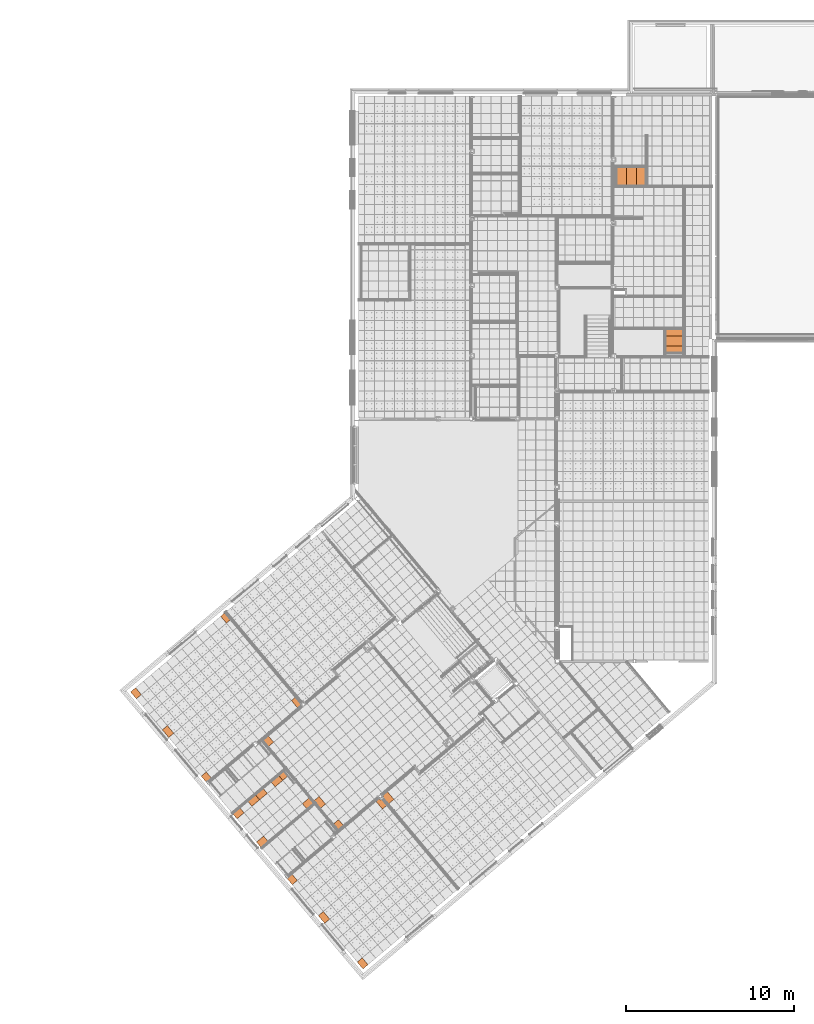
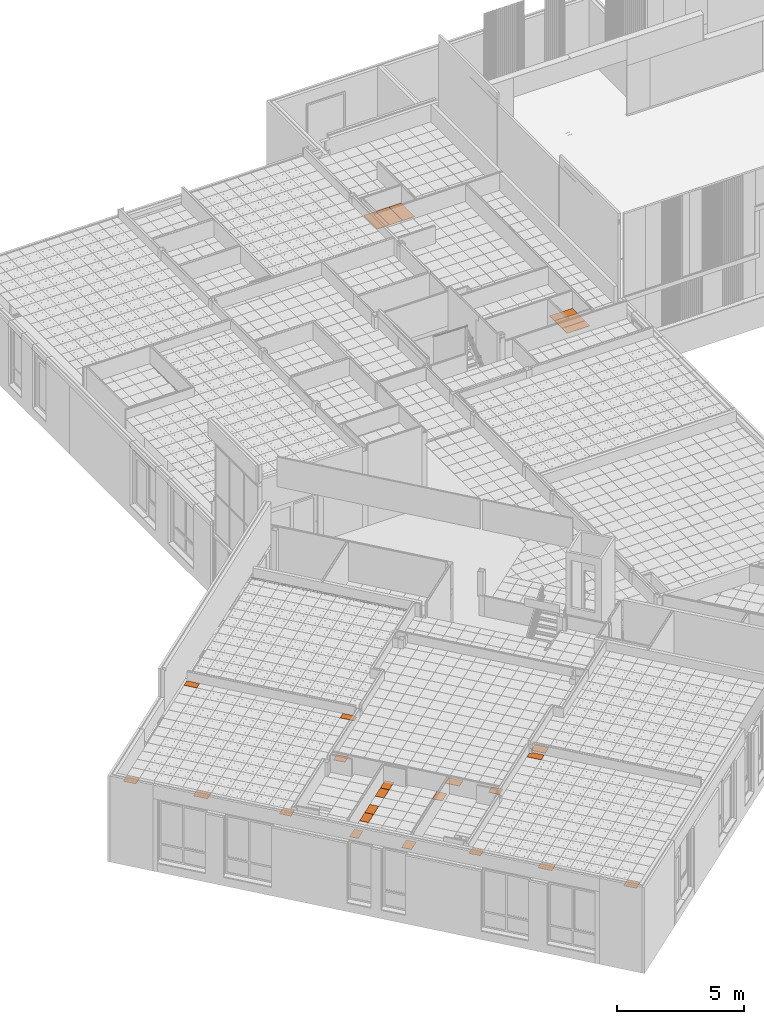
# One storey, part 321 of 338: 26 proxies, 7 elements without a shape of their own.
"""IFC2X3 building model written with IfcOpenShell, lengths in millimetres."""

from ifc_helpers import new_model, entity, si_unit, converted_unit, derived_unit, money_unit, direction, frame, origin_with_axes, place, context, subcontext, project, spatial, faceted_brep, material, type_object, element, aggregate, save


model = new_model("IFC2X3")

# Units and contexts
model_context = context("Model", 3, precision=0.01, world=origin_with_axes(), true_north=direction((0.0, 1.0)))
plan_context = context("Plan", 3, precision=0.01, world=origin_with_axes(), true_north=direction((0.0, 1.0)))
body_context = subcontext(model_context, "Body", "Model", "MODEL_VIEW")
ifc_project = project(units=[si_unit("LENGTHUNIT", "METRE", prefix="MILLI"), si_unit("AREAUNIT", "SQUARE_METRE"), si_unit("VOLUMEUNIT", "CUBIC_METRE"), converted_unit("PLANEANGLEUNIT", "DEGREE", entity("IfcPlaneAngleMeasure", 0.0174532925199), si_unit("PLANEANGLEUNIT", "RADIAN"), dimensions=[0, 0, 0, 0, 0, 0, 0]), money_unit("EUR"), converted_unit("TIMEUNIT", "Year", entity("IfcTimeMeasure", 31556926.0), si_unit("TIMEUNIT", "SECOND"), dimensions=[0, 0, 1, 0, 0, 0, 0]), si_unit("MASSUNIT", "GRAM", prefix="KILO"), si_unit("THERMODYNAMICTEMPERATUREUNIT", "DEGREE_CELSIUS"), si_unit("LUMINOUSINTENSITYUNIT", "LUMEN"), si_unit("ENERGYUNIT", "JOULE", prefix="MEGA"), derived_unit("THERMALCONDUCTANCEUNIT", [(si_unit("POWERUNIT", "WATT"), 1), (si_unit("LENGTHUNIT", "METRE"), -1), (si_unit("THERMODYNAMICTEMPERATUREUNIT", "KELVIN"), -1)]), derived_unit("SPECIFICHEATCAPACITYUNIT", [(si_unit("ENERGYUNIT", "JOULE"), 1), (si_unit("MASSUNIT", "GRAM", prefix="KILO"), -1), (si_unit("THERMODYNAMICTEMPERATUREUNIT", "KELVIN"), -1)]), derived_unit("MASSDENSITYUNIT", [(si_unit("MASSUNIT", "GRAM", prefix="KILO"), 1), (si_unit("VOLUMEUNIT", "CUBIC_METRE"), -1)])], contexts=[model_context, plan_context])

# Site, building, storey
site_placement = place(None, origin_with_axes())
site = spatial("IfcSite", under=ifc_project, at=site_placement, Name="Fortuinstraat Woensdrecht", CompositionType="ELEMENT")
building_placement = place(site_placement, origin_with_axes())
building = spatial("IfcBuilding", under=site, at=building_placement, Name="IKC Fortuna", CompositionType="ELEMENT")
storey_placement = place(building_placement, origin_with_axes())
storey = spatial("IfcBuildingStorey", under=building, at=storey_placement, Name="00 begane grond", CompositionType="ELEMENT", Elevation=0.0)

# Covering, proxies
covering_type = type_object("IfcCoveringType", Name="Curtain Wall Type", PredefinedType="CEILING")
covering_1_placement = place(storey_placement, frame((17937.1227498, -4186.27868692, 4660.0), z_axis=(0.0, 0.0, 1.0), x_axis=(1.0, 0.0, 0.0)))
covering_1 = element("IfcCovering", 1, at=covering_1_placement, inside=storey, type_object=covering_type, Name="45_Plafondafwerking_P02", PredefinedType="CEILING")
ifc_material = material(Name="Gipsplaat")
building_element_proxy_type_1 = type_object("IfcBuildingElementProxyType", Name="Distinct Panel 400 x 470 x 20", PredefinedType="NOTDEFINED")
proxy_1_placement = place(covering_1_placement, frame((-5316.66438761, -3775.8734372, 2.73558953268e-10), z_axis=(0.0, 0.0, 1.0), x_axis=(1.0, 0.0, 0.0)))
proxy_1 = element("IfcBuildingElementProxy", 2, at=proxy_1_placement, type_object=building_element_proxy_type_1, material=ifc_material, Name="__Panel-D", context=body_context, shape_type="Brep", body=[
    faceted_brep([(1.84586016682, 304.877784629, -10.0), (-300.566561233, 51.1234975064, -10.0), (-300.566561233, 51.1234975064, 9.99999999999), (1.84586016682, 304.877784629, 9.99999999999), (300.566564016, -51.1234948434, -10.0), (-1.84586655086, -304.877772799, -10.0), (-1.84586655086, -304.877772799, 9.99999999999), (300.566564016, -51.1234948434, 9.99999999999)], [[[0, 1, 2, 3]], [[0, 4, 5, 1]], [[1, 5, 6, 2]], [[3, 2, 6, 7]], [[4, 0, 3, 7]], [[5, 4, 7, 6]]]),
])
building_element_proxy_type_2 = type_object("IfcBuildingElementProxyType", Name="Distinct Panel 400 x 600 x 20", PredefinedType="NOTDEFINED")
proxy_2_placement = place(covering_1_placement, frame((-6431.81363938, -2446.89146249, 2.73558953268e-10), z_axis=(0.0, 0.0, 1.0), x_axis=(1.0, 0.0, 0.0)))
proxy_2 = element("IfcBuildingElementProxy", 3, at=proxy_2_placement, type_object=building_element_proxy_type_2, material=ifc_material, Name="__Panel-D", context=body_context, shape_type="Brep", body=[
    faceted_brep([(-40.0229237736, 354.775518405, -10.0), (-342.436284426, 101.020458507, -10.0), (-342.436284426, 101.020458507, 9.99999999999), (-40.0229237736, 354.775518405, 9.99999999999), (342.435826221, -101.020836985, -10.0), (40.0233818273, -354.775129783, -10.0), (40.0233818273, -354.775129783, 9.99999999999), (342.435826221, -101.020836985, 9.99999999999)], [[[0, 1, 2, 3]], [[0, 4, 5, 1]], [[1, 5, 6, 2]], [[3, 2, 6, 7]], [[4, 0, 3, 7]], [[5, 4, 7, 6]]]),
])
building_element_proxy_type_3 = type_object("IfcBuildingElementProxyType", Name="Distinct Panel 400 x 495 x 20", PredefinedType="NOTDEFINED")
proxy_3_placement = place(covering_1_placement, frame((-9483.53634046, 1190.00861887, 2.73558953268e-10), z_axis=(0.0, 0.0, 1.0), x_axis=(1.0, 0.0, 0.0)))
proxy_3 = element("IfcBuildingElementProxy", 4, at=proxy_3_placement, type_object=building_element_proxy_type_3, material=ifc_material, Name="__Panel-D", context=body_context, shape_type="Brep", body=[
    faceted_brep([(-6.36458547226, 314.662621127, -10.0), (-308.777104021, 60.9084149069, -10.0), (-308.777104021, 60.9084149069, 9.99999999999), (-6.36458547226, 314.662621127, 9.99999999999), (308.777054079, -60.9083698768, -10.0), (6.36462065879, -314.662670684, -10.0), (6.36462065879, -314.662670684, 9.99999999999), (308.777054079, -60.9083698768, 9.99999999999)], [[[0, 1, 2, 3]], [[0, 4, 5, 1]], [[1, 5, 6, 2]], [[3, 2, 6, 7]], [[4, 0, 3, 7]], [[5, 4, 7, 6]]]),
])
aggregate(covering_1, [proxy_1, proxy_2, proxy_3])

covering_2_placement = place(storey_placement, frame((32594.8983385, 20792.5135572, 2810.0), z_axis=(0.0, 0.0, 1.0), x_axis=(1.0, 0.0, 0.0)))
covering_2 = element("IfcCovering", 5, at=covering_2_placement, inside=storey, type_object=covering_type, Name="45_Plafondafwerking_P02a", PredefinedType="CEILING")
building_element_proxy_type_4 = type_object("IfcBuildingElementProxyType", Name="Distinct Panel 1050 x 600 x 20", PredefinedType="NOTDEFINED")
proxy_4_placement = place(covering_2_placement, origin_with_axes())
proxy_4 = element("IfcBuildingElementProxy", 6, at=proxy_4_placement, type_object=building_element_proxy_type_4, material=ifc_material, Name="__Panel-D", context=body_context, shape_type="Brep", body=[
    faceted_brep([(-522.265739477, 297.500004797, -10.0), (-522.265739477, 297.500004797, 9.99999999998), (522.265737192, 297.500004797, 9.99999999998), (522.265737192, 297.500004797, -10.0), (-522.265739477, -297.500002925, -10.0), (-522.265739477, -297.500002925, 9.99999999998), (522.265737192, -297.500002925, 9.99999999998), (522.265737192, -297.500002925, -10.0)], [[[0, 1, 2, 3]], [[4, 5, 1, 0]], [[1, 5, 6, 2]], [[3, 2, 6, 7]], [[0, 3, 7, 4]], [[7, 6, 5, 4]]]),
])
building_element_proxy_type_5 = type_object("IfcBuildingElementProxyType", Name="Distinct Panel 1050 x 392 x 20", PredefinedType="NOTDEFINED")
proxy_5_placement = place(covering_2_placement, frame((2.80998335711e-07, 496.000002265, 0.0), z_axis=(0.0, 0.0, 1.0), x_axis=(1.0, 0.0, 0.0)))
proxy_5 = element("IfcBuildingElementProxy", 7, at=proxy_5_placement, type_object=building_element_proxy_type_5, material=ifc_material, Name="__Panel-D", context=body_context, shape_type="Brep", body=[
    faceted_brep([(-522.26574552, 193.49999892, -10.0), (-522.26574552, 193.49999892, 9.99999999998), (522.265748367, 193.49999892, 9.99999999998), (522.265748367, 193.49999892, -10.0), (-522.265729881, -193.500005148, -10.0), (-522.265729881, -193.500005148, 9.99999999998), (522.265732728, -193.500005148, 9.99999999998), (522.265732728, -193.500005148, -10.0)], [[[0, 1, 2, 3]], [[4, 5, 1, 0]], [[1, 5, 6, 2]], [[3, 2, 6, 7]], [[0, 3, 7, 4]], [[7, 6, 5, 4]]]),
])
building_element_proxy_type_6 = type_object("IfcBuildingElementProxyType", Name="Distinct Panel 1050 x 393 x 20", PredefinedType="NOTDEFINED")
proxy_6_placement = place(covering_2_placement, frame((1.34977540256e-06, -496.35845993, 0.0), z_axis=(0.0, 0.0, 1.0), x_axis=(1.0, 0.0, 0.0)))
proxy_6 = element("IfcBuildingElementProxy", 8, at=proxy_6_placement, type_object=building_element_proxy_type_6, material=ifc_material, Name="__Panel-D", context=body_context, shape_type="Brep", body=[
    faceted_brep([(-522.265736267, 193.858452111, -10.0), (-522.265736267, 193.858452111, 9.99999999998), (522.265735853, 193.858452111, 9.99999999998), (522.265735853, 193.858452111, -10.0), (-522.265736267, -193.858462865, -10.0), (-522.265736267, -193.858462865, 9.99999999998), (522.265735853, -193.858462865, 9.99999999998), (522.265735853, -193.858462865, -10.0)], [[[0, 1, 2, 3]], [[4, 5, 1, 0]], [[1, 5, 6, 2]], [[3, 2, 6, 7]], [[0, 3, 7, 4]], [[7, 6, 5, 4]]]),
])
aggregate(covering_2, [proxy_4, proxy_5, proxy_6])

covering_3_placement = place(storey_placement, frame((9775.85169731, -1002.28242867, 4660.0), z_axis=(0.0, 0.0, 1.0), x_axis=(1.0, 0.0, 0.0)))
covering_3 = element("IfcCovering", 9, at=covering_3_placement, inside=storey, type_object=covering_type, Name="45_Plafondafwerking_P01", PredefinedType="CEILING")
building_element_proxy_type_7 = type_object("IfcBuildingElementProxyType", Name="394 x 600 x 20", PredefinedType="NOTDEFINED")
proxy_7_placement = place(covering_3_placement, frame((-7291.20980591, -1418.58734131, 2.32702745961e-10), z_axis=(0.0, 0.0, 1.0), x_axis=(1.0, 0.0, 0.0)))
proxy_7 = element("IfcBuildingElementProxy", 10, at=proxy_7_placement, type_object=building_element_proxy_type_7, material=ifc_material, Name="__600x671 Rockfon Krios", context=body_context, shape_type="Brep", body=[
    faceted_brep([(-42.049749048, 353.074805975, -10.0), (-340.408985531, 102.721540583, -10.0), (-340.408985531, 102.721540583, 9.99999999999), (-42.049749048, 353.074805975, 9.99999999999), (340.409003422, -102.721545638, -10.0), (42.0497457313, -353.074811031, -10.0), (42.0497457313, -353.074811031, 9.99999999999), (340.409003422, -102.721545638, 9.99999999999)], [[[0, 1, 2, 3]], [[0, 4, 5, 1]], [[1, 5, 6, 2]], [[3, 2, 6, 7]], [[4, 0, 3, 7]], [[5, 4, 7, 6]]]),
])
building_element_proxy_type_8 = type_object("IfcBuildingElementProxyType", Name="330 x 600 x 20", PredefinedType="NOTDEFINED")
proxy_8_placement = place(covering_3_placement, frame((428.270848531, 274.468674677, 0.0), z_axis=(0.0, 0.0, 1.0), x_axis=(1.0, 0.0, 0.0)))
proxy_8 = element("IfcBuildingElementProxy", 11, at=proxy_8_placement, type_object=building_element_proxy_type_8, material=ifc_material, Name="__600x662 Rockfon Krios", context=body_context, shape_type="Brep", body=[
    faceted_brep([(-138.439451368, 357.087646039, -10.0), (-387.771840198, 147.872815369, -10.0), (-387.771840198, 147.872815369, 9.99999999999), (-138.439451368, 357.087646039, 9.99999999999), (176.586935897, -18.3487505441, -10.0), (140.230719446, -48.8562865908, -10.0), (207.662540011, -129.215714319, -10.0), (-5.31306291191, -307.923548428, -10.0), (-5.31306291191, -307.923548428, 9.99999999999), (207.662540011, -129.215714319, 9.99999999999), (140.230719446, -48.8562865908, 9.99999999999), (176.586935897, -18.3487505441, 9.99999999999)], [[[0, 1, 2, 3]], [[0, 4, 5, 6, 7, 1]], [[1, 7, 8, 2]], [[3, 2, 8, 9, 10, 11]], [[4, 0, 3, 11]], [[5, 4, 11, 10]], [[6, 5, 10, 9]], [[7, 6, 9, 8]]]),
])
building_element_proxy_type_9 = type_object("IfcBuildingElementProxyType", Name="330 x 538 x 20", PredefinedType="NOTDEFINED")
proxy_9_placement = place(covering_3_placement, frame((-3865.94700781, 5331.03890265, 0.0), z_axis=(0.0, 0.0, 1.0), x_axis=(1.0, 0.0, 0.0)))
proxy_9 = element("IfcBuildingElementProxy", 12, at=proxy_9_placement, type_object=building_element_proxy_type_9, material=ifc_material, Name="__600x620 Rockfon Krios", context=body_context, shape_type="Brep", body=[
    faceted_brep([(-46.5052484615, 308.601490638, -10.0), (-295.837666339, 99.3866794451, -10.0), (-295.837666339, 99.3866794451, 9.99999999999), (-46.5052484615, 308.601490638, 9.99999999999), (295.837654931, -99.3866747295, -10.0), (46.5052556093, -308.601504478, -10.0), (46.5052556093, -308.601504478, 9.99999999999), (295.837654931, -99.3866747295, 9.99999999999)], [[[0, 1, 2, 3]], [[0, 4, 5, 1]], [[1, 5, 6, 2]], [[3, 2, 6, 7]], [[4, 0, 3, 7]], [[5, 4, 7, 6]]]),
])
building_element_proxy_type_10 = type_object("IfcBuildingElementProxyType", Name="394 x 495 x 20", PredefinedType="NOTDEFINED")
proxy_10_placement = place(covering_3_placement, frame((-5010.89070445, -4136.16442168, 2.32702745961e-10), z_axis=(0.0, 0.0, 1.0), x_axis=(1.0, 0.0, 0.0)))
proxy_10 = element("IfcBuildingElementProxy", 13, at=proxy_10_placement, type_object=building_element_proxy_type_10, material=ifc_material, Name="__600x635 Rockfon Krios", context=body_context, shape_type="Brep", body=[
    faceted_brep([(-8.33275440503, 312.892480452, -10.0), (-306.692002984, 62.5392192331, -10.0), (-306.692002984, 62.5392192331, 9.99999999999), (-8.33275440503, 312.892480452, 9.99999999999), (306.691970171, -62.5391803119, -10.0), (8.33278743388, -312.892516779, -10.0), (8.33278743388, -312.892516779, 9.99999999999), (306.691970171, -62.5391803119, 9.99999999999)], [[[0, 1, 2, 3]], [[0, 4, 5, 1]], [[1, 5, 6, 2]], [[3, 2, 6, 7]], [[4, 0, 3, 7]], [[5, 4, 7, 6]]]),
])
building_element_proxy_type_11 = type_object("IfcBuildingElementProxyType", Name="394 x 538 x 20", PredefinedType="NOTDEFINED")
proxy_11_placement = place(covering_3_placement, frame((-9199.51529032, 855.641403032, 2.32702745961e-10), z_axis=(0.0, 0.0, 1.0), x_axis=(1.0, 0.0, 0.0)))
proxy_11 = element("IfcBuildingElementProxy", 14, at=proxy_11_placement, type_object=building_element_proxy_type_11, material=ifc_material, Name="__600x707 Rockfon Krios", context=body_context, shape_type="Brep", body=[
    faceted_brep([(-21.9918183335, 329.170700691, -10.0), (-320.351069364, 78.8174477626, -10.0), (-320.351069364, 78.8174477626, 9.99999999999), (-21.9918183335, 329.170700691, 9.99999999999), (320.35107414, -78.8174500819, -10.0), (21.9918231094, -329.170712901, -10.0), (21.9918231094, -329.170712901, 9.99999999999), (320.35107414, -78.8174500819, 9.99999999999)], [[[0, 1, 2, 3]], [[0, 4, 5, 1]], [[1, 5, 6, 2]], [[3, 2, 6, 7]], [[4, 0, 3, 7]], [[5, 4, 7, 6]]]),
])
aggregate(covering_3, [proxy_9, proxy_10, proxy_8, proxy_7, proxy_11])

covering_4_placement = place(storey_placement, frame((6990.12644751, -7663.89158706, 4260.0), z_axis=(0.0, 0.0, 1.0), x_axis=(1.0, 0.0, 0.0)))
covering_4 = element("IfcCovering", 15, at=covering_4_placement, inside=storey, type_object=covering_type, Name="45_Plafondafwerking_P02", PredefinedType="CEILING")
building_element_proxy_type_12 = type_object("IfcBuildingElementProxyType", Name="Distinct Panel 557 x 375 x 20", PredefinedType="NOTDEFINED")
proxy_12_placement = place(covering_4_placement, frame((-313.34356723, 373.428129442, 1.24344978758e-10), z_axis=(0.0, 0.0, 1.0), x_axis=(1.0, 0.0, 0.0)))
proxy_12 = element("IfcBuildingElementProxy", 16, at=proxy_12_placement, type_object=building_element_proxy_type_12, material=ifc_material, Name="__Panel-D", context=body_context, shape_type="Brep", body=[
    faceted_brep([(92.5224656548, 319.104528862, -10.0), (-330.322965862, -35.7050556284, -10.0), (-330.322965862, -35.7050556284, 9.99999999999), (92.5224656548, 319.104528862, 9.99999999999), (330.322962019, 35.7050774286, -10.0), (-92.5224496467, -319.104536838, -10.0), (-92.5224496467, -319.104536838, 9.99999999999), (330.322962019, 35.7050774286, 9.99999999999)], [[[0, 1, 2, 3]], [[0, 4, 5, 1]], [[1, 5, 6, 2]], [[3, 2, 6, 7]], [[4, 0, 3, 7]], [[5, 4, 7, 6]]]),
])
building_element_proxy_type_13 = type_object("IfcBuildingElementProxyType", Name="Distinct Panel 600 x 375 x 20", PredefinedType="NOTDEFINED")
proxy_13_placement = place(covering_4_placement, frame((1049.06066855, 1516.62161532, 0.0), z_axis=(0.0, 0.0, 1.0), x_axis=(1.0, 0.0, 0.0)))
proxy_13 = element("IfcBuildingElementProxy", 17, at=proxy_13_placement, type_object=building_element_proxy_type_13, material=ifc_material, Name="__Panel-D", context=body_context, shape_type="Brep", body=[
    faceted_brep([(108.99791356, 332.92911249, -10.0), (-346.798427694, -49.5296414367, -10.0), (-346.798427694, -49.5296414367, 9.99999999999), (108.99791356, 332.92911249, 9.99999999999), (346.798436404, 49.5296403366, -10.0), (-108.997925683, -332.929103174, -10.0), (-108.997925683, -332.929103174, 9.99999999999), (346.798436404, 49.5296403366, 9.99999999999)], [[[0, 1, 2, 3]], [[0, 4, 5, 1]], [[1, 5, 6, 2]], [[3, 2, 6, 7]], [[4, 0, 3, 7]], [[5, 4, 7, 6]]]),
])
proxy_14_placement = place(covering_4_placement, frame((589.434100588, 1130.94893283, 0.0), z_axis=(0.0, 0.0, 1.0), x_axis=(1.0, 0.0, 0.0)))
proxy_14 = element("IfcBuildingElementProxy", 18, at=proxy_14_placement, type_object=building_element_proxy_type_13, material=ifc_material, Name="__Panel-D", context=body_context, shape_type="Brep", body=[
    faceted_brep([(108.997915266, 332.92911249, -10.0), (-346.798436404, -49.5296414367, -10.0), (-346.798436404, -49.5296414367, 9.99999999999), (108.997915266, 332.92911249, 9.99999999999), (346.79843811, 49.5296403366, -10.0), (-108.997923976, -332.929103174, -10.0), (-108.997923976, -332.929103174, 9.99999999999), (346.79843811, 49.5296403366, 9.99999999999)], [[[0, 1, 2, 3]], [[0, 4, 5, 1]], [[1, 5, 6, 2]], [[3, 2, 6, 7]], [[4, 0, 3, 7]], [[5, 4, 7, 6]]]),
])
proxy_15_placement = place(covering_4_placement, frame((1968.31380499, 2287.9669797, 0.0), z_axis=(0.0, 0.0, 1.0), x_axis=(1.0, 0.0, 0.0)))
proxy_15 = element("IfcBuildingElementProxy", 19, at=proxy_15_placement, type_object=building_element_proxy_type_13, material=ifc_material, Name="__Panel-D", context=body_context, shape_type="Brep", body=[
    faceted_brep([(108.99791476, 332.929113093, -10.0), (-346.798436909, -49.5296408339, -10.0), (-346.798436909, -49.5296408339, 9.99999999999), (108.99791476, 332.929113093, 9.99999999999), (346.798437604, 49.5296409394, -10.0), (-108.997924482, -332.929102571, -10.0), (-108.997924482, -332.929102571, 9.99999999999), (346.798437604, 49.5296409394, 9.99999999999)], [[[0, 1, 2, 3]], [[0, 4, 5, 1]], [[1, 5, 6, 2]], [[3, 2, 6, 7]], [[4, 0, 3, 7]], [[5, 4, 7, 6]]]),
])
building_element_proxy_type_14 = type_object("IfcBuildingElementProxyType", Name="Distinct Panel 557 x 425 x 20", PredefinedType="NOTDEFINED")
proxy_16_placement = place(covering_4_placement, frame((1100.7586017, -1311.83234185, 1.24344978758e-10), z_axis=(0.0, 0.0, 1.0), x_axis=(1.0, 0.0, 0.0)))
proxy_16 = element("IfcBuildingElementProxy", 20, at=proxy_16_placement, type_object=building_element_proxy_type_14, material=ifc_material, Name="__Panel-D", context=body_context, shape_type="Brep", body=[
    faceted_brep([(76.4527785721, 338.255614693, -10.0), (-346.392638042, -16.5539900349, -10.0), (-346.392638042, -16.5539900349, 9.99999999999), (76.4527785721, 338.255614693, 9.99999999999), (346.392647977, 16.5539891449, -10.0), (-76.452779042, -338.255605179, -10.0), (-76.452779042, -338.255605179, 9.99999999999), (346.392647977, 16.5539891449, 9.99999999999)], [[[0, 1, 2, 3]], [[0, 4, 5, 1]], [[1, 5, 6, 2]], [[3, 2, 6, 7]], [[4, 0, 3, 7]], [[5, 4, 7, 6]]]),
])
building_element_proxy_type_15 = type_object("IfcBuildingElementProxyType", Name="Distinct Panel 543 x 375 x 20", PredefinedType="NOTDEFINED")
proxy_17_placement = place(covering_4_placement, frame((2406.10283415, 2655.31577257, 0.0), z_axis=(0.0, 0.0, 1.0), x_axis=(1.0, 0.0, 0.0)))
proxy_17 = element("IfcBuildingElementProxy", 21, at=proxy_17_placement, type_object=building_element_proxy_type_15, material=ifc_material, Name="__Panel-D", context=body_context, shape_type="Brep", body=[
    faceted_brep([(87.1603837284, 314.605209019, -10.0), (-324.960894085, -31.2057485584, -10.0), (-324.960894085, -31.2057485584, 9.99999999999), (87.1603837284, 314.605209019, 9.99999999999), (324.960880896, 31.2057557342, -10.0), (-87.1603871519, -314.605211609, -10.0), (-87.1603871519, -314.605211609, 9.99999999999), (324.960880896, 31.2057557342, 9.99999999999)], [[[0, 1, 2, 3]], [[0, 4, 5, 1]], [[1, 5, 6, 2]], [[3, 2, 6, 7]], [[4, 0, 3, 7]], [[5, 4, 7, 6]]]),
])
building_element_proxy_type_16 = type_object("IfcBuildingElementProxyType", Name="Distinct Panel 543 x 425 x 20", PredefinedType="NOTDEFINED")
proxy_18_placement = place(covering_4_placement, frame((3820.20501032, 970.055292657, 0.0), z_axis=(0.0, 0.0, 1.0), x_axis=(1.0, 0.0, 0.0)))
proxy_18 = element("IfcBuildingElementProxy", 22, at=proxy_18_placement, type_object=building_element_proxy_type_16, material=ifc_material, Name="__Panel-D", context=body_context, shape_type="Brep", body=[
    faceted_brep([(71.090694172, 333.756315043, -10.0), (-341.030565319, -12.0546629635, -10.0), (-341.030565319, -12.0546629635, 9.99999999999), (71.090694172, 333.756315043, 9.99999999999), (341.030567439, 12.0546676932, -10.0), (-71.090702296, -333.756310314, -10.0), (-71.090702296, -333.756310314, 9.99999999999), (341.030567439, 12.0546676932, 9.99999999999)], [[[0, 1, 2, 3]], [[0, 4, 5, 1]], [[1, 5, 6, 2]], [[3, 2, 6, 7]], [[4, 0, 3, 7]], [[5, 4, 7, 6]]]),
])
aggregate(covering_4, [proxy_12, proxy_13, proxy_16, proxy_14, proxy_15, proxy_17, proxy_18])

covering_5_placement = place(storey_placement, frame((15150.6418133, -6622.13986243, 4660.0), z_axis=(0.0, 0.0, 1.0), x_axis=(1.0, 0.0, 0.0)))
covering_5 = element("IfcCovering", 23, at=covering_5_placement, inside=storey, type_object=covering_type, Name="45_Plafondafwerking_P01", PredefinedType="CEILING")
building_element_proxy_type_17 = type_object("IfcBuildingElementProxyType", Name="259 x 600 x 20", PredefinedType="NOTDEFINED")
proxy_19_placement = place(covering_5_placement, origin_with_axes())
proxy_19 = element("IfcBuildingElementProxy", 24, at=proxy_19_placement, type_object=building_element_proxy_type_17, material=ifc_material, Name="__600x600 Rockfon Krios", context=body_context, shape_type="Brep", body=[
    faceted_brep([(-109.715478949, 211.446118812, -10.0), (-304.52296989, 47.9831345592, -10.0), (-304.52296989, 47.9831345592, 9.99999999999), (-109.715478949, 211.446118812, 9.99999999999), (-42.2210730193, 131.009513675, -10.0), (31.4715307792, 192.844971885, -10.0), (346.435950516, -182.514682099, -10.0), (77.9357677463, -407.813212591, -10.0), (77.9357677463, -407.813212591, 9.99999999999), (346.435950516, -182.514682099, 9.99999999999), (31.4715307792, 192.844971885, 9.99999999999), (-42.2210730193, 131.009513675, 9.99999999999)], [[[0, 1, 2, 3]], [[0, 4, 5, 6, 7, 1]], [[1, 7, 8, 2]], [[3, 2, 8, 9, 10, 11]], [[4, 0, 3, 11]], [[5, 4, 11, 10]], [[6, 5, 10, 9]], [[7, 6, 9, 8]]]),
])
building_element_proxy_type_18 = type_object("IfcBuildingElementProxyType", Name="395 x 495 x 20", PredefinedType="NOTDEFINED")
proxy_20_placement = place(covering_5_placement, frame((-5288.45673669, -4590.92916697, 2.33590924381e-10), z_axis=(0.0, 0.0, 1.0), x_axis=(1.0, 0.0, 0.0)))
proxy_20 = element("IfcBuildingElementProxy", 25, at=proxy_20_placement, type_object=building_element_proxy_type_18, material=ifc_material, Name="__600x612 Rockfon Krios", context=body_context, shape_type="Brep", body=[
    faceted_brep([(-8.29547727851, 312.863604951, -10.0), (-306.670030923, 62.4974899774, -10.0), (-306.670030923, 62.4974899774, 9.99999999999), (-8.29547727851, 312.863604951, 9.99999999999), (306.670033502, -62.4974891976, -10.0), (8.29547045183, -312.863594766, -10.0), (8.29547045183, -312.863594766, 9.99999999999), (306.670033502, -62.4974891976, 9.99999999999)], [[[0, 1, 2, 3]], [[0, 4, 5, 1]], [[1, 5, 6, 2]], [[3, 2, 6, 7]], [[4, 0, 3, 7]], [[5, 4, 7, 6]]]),
])
building_element_proxy_type_19 = type_object("IfcBuildingElementProxyType", Name="395 x 600 x 20", PredefinedType="NOTDEFINED")
proxy_21_placement = place(covering_5_placement, frame((-3393.83993979, -6848.8443772, 2.33590924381e-10), z_axis=(0.0, 0.0, 1.0), x_axis=(1.0, 0.0, 0.0)))
proxy_21 = element("IfcBuildingElementProxy", 26, at=proxy_21_placement, type_object=building_element_proxy_type_19, material=ifc_material, Name="__600x675 Rockfon Krios", context=body_context, shape_type="Brep", body=[
    faceted_brep([(-42.0420920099, 353.081241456, -10.0), (-340.416652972, 102.715119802, -10.0), (-340.416652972, 102.715119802, 9.99999999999), (-42.0420920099, 353.081241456, 9.99999999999), (340.416654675, -102.715124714, -10.0), (42.042093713, -353.081235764, -10.0), (42.042093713, -353.081235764, 9.99999999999), (340.416654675, -102.715124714, 9.99999999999)], [[[0, 1, 2, 3]], [[0, 4, 5, 1]], [[1, 5, 6, 2]], [[3, 2, 6, 7]], [[4, 0, 3, 7]], [[5, 4, 7, 6]]]),
])
building_element_proxy_type_20 = type_object("IfcBuildingElementProxyType", Name="395 x 538 x 20", PredefinedType="NOTDEFINED")
proxy_22_placement = place(covering_5_placement, frame((-1099.890131, -9582.66589365, 2.33590924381e-10), z_axis=(0.0, 0.0, 1.0), x_axis=(1.0, 0.0, 0.0)))
proxy_22 = element("IfcBuildingElementProxy", 27, at=proxy_22_placement, type_object=building_element_proxy_type_20, material=ifc_material, Name="__600x753 Rockfon Krios", context=body_context, shape_type="Brep", body=[
    faceted_brep([(-21.9558115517, 329.143345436, -10.0), (-320.330372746, 78.7772319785, -10.0), (-320.330372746, 78.7772319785, 9.99999999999), (-21.9558115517, 329.143345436, 9.99999999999), (320.330372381, -78.7772233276, -10.0), (21.9558012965, -329.143336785, -10.0), (21.9558012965, -329.143336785, 9.99999999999), (320.330372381, -78.7772233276, 9.99999999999)], [[[0, 1, 2, 3]], [[0, 4, 5, 1]], [[1, 5, 6, 2]], [[3, 2, 6, 7]], [[4, 0, 3, 7]], [[5, 4, 7, 6]]]),
])
aggregate(covering_5, [proxy_19, proxy_20, proxy_21, proxy_22])

# Covering, proxy
covering_6_placement = place(storey_placement, frame((19785.7448517, -11392.5753808, 4660.0), z_axis=(0.0, 0.0, 1.0), x_axis=(1.0, 0.0, 0.0)))
covering_6 = element("IfcCovering", 28, at=covering_6_placement, inside=storey, type_object=covering_type, Name="45_Plafondafwerking_P01", PredefinedType="CEILING")
building_element_proxy_type_21 = type_object("IfcBuildingElementProxyType", Name="394 x 105 x 20", PredefinedType="NOTDEFINED")
proxy_23_placement = place(covering_6_placement, frame((-4311.28834353, 5042.08129699, 2.38919994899e-10), z_axis=(0.0, 0.0, 1.0), x_axis=(1.0, 0.0, 0.0)))
proxy_23 = element("IfcBuildingElementProxy", 29, at=proxy_23_placement, type_object=building_element_proxy_type_21, material=ifc_material, Name="__600x612 Rockfon Krios", context=body_context, shape_type="Brep", body=[
    faceted_brep([(55.7418420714, 350.346025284, -10.0), (-242.017838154, 100.495854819, -10.0), (-242.017838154, 100.495854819, 9.99999999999), (55.7418420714, 350.346025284, 9.99999999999), (438.200581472, -105.450330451, -10.0), (122.208161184, -370.599591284, -10.0), (-192.736889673, 4.73726545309, -10.0), (-174.310801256, 19.8057730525, -10.0), (-174.310801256, 19.8057730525, 9.99999999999), (-192.736889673, 4.73726545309, 9.99999999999), (122.208161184, -370.599591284, 9.99999999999), (438.200581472, -105.450330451, 9.99999999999)], [[[0, 1, 2, 3]], [[0, 4, 5, 6, 7, 1]], [[1, 7, 8, 2]], [[3, 2, 8, 9, 10, 11]], [[4, 0, 3, 11]], [[5, 4, 11, 10]], [[6, 5, 10, 9]], [[7, 6, 9, 8]]]),
])
aggregate(covering_6, [proxy_23])

# Covering, proxies
covering_7_placement = place(storey_placement, frame((30031.8655191, 30574.481295, 2810.0), z_axis=(0.0, 0.0, 1.0), x_axis=(1.0, 0.0, 0.0)))
covering_7 = element("IfcCovering", 30, at=covering_7_placement, inside=storey, type_object=covering_type, Name="45_Plafondafwerking_P02 v", PredefinedType="CEILING")
building_element_proxy_type_22 = type_object("IfcBuildingElementProxyType", Name="Distinct Panel 600 x 1084 x 20", PredefinedType="NOTDEFINED")
proxy_24_placement = place(covering_7_placement, origin_with_axes())
proxy_24 = element("IfcBuildingElementProxy", 31, at=proxy_24_placement, type_object=building_element_proxy_type_22, material=ifc_material, Name="__Panel-D", context=body_context, shape_type="Brep", body=[
    faceted_brep([(-297.500000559, 539.500014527, -10.0), (-297.500000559, 539.500014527, 9.99999999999), (297.500003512, 539.500014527, 9.99999999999), (297.500003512, 539.500014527, -10.0), (-297.500000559, -539.499994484, -10.0), (-297.500000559, -539.499994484, 9.99999999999), (297.500003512, -539.499994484, 9.99999999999), (297.500003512, -539.499994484, -10.0)], [[[0, 1, 2, 3]], [[4, 5, 1, 0]], [[1, 5, 6, 2]], [[3, 2, 6, 7]], [[0, 3, 7, 4]], [[7, 6, 5, 4]]]),
])
building_element_proxy_type_23 = type_object("IfcBuildingElementProxyType", Name="Distinct Panel 563 x 1084 x 20", PredefinedType="NOTDEFINED")
proxy_25_placement = place(covering_7_placement, frame((581.250000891, 5.6047930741e-06, 0.0), z_axis=(0.0, 0.0, 1.0), x_axis=(1.0, 0.0, 0.0)))
proxy_25 = element("IfcBuildingElementProxy", 32, at=proxy_25_placement, type_object=building_element_proxy_type_23, material=ifc_material, Name="__Panel-D", context=body_context, shape_type="Brep", body=[
    faceted_brep([(-278.749998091, 539.500008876, -10.0), (-278.749998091, 539.500008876, 9.99999999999), (278.750004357, 539.500008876, 9.99999999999), (278.750004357, 539.500008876, -10.0), (-278.749998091, -539.500020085, -10.0), (-278.749998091, -539.500020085, 9.99999999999), (278.750004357, -539.499987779, 9.99999999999), (278.750004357, -539.499987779, -10.0)], [[[0, 1, 2, 3]], [[4, 5, 1, 0]], [[1, 5, 6, 2]], [[3, 2, 6, 7]], [[0, 3, 7, 4]], [[7, 6, 5, 4]]]),
])
building_element_proxy_type_24 = type_object("IfcBuildingElementProxyType", Name="Distinct Panel 562 x 1084 x 20", PredefinedType="NOTDEFINED")
proxy_26_placement = place(covering_7_placement, frame((-581.215257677, -9.99520111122e-06, 0.0), z_axis=(0.0, 0.0, 1.0), x_axis=(1.0, 0.0, 0.0)))
proxy_26 = element("IfcBuildingElementProxy", 33, at=proxy_26_placement, type_object=building_element_proxy_type_24, material=ifc_material, Name="__Panel-D", context=body_context, shape_type="Brep", body=[
    faceted_brep([(-278.715304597, 539.500024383, -10.0), (-278.715304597, 539.500024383, 9.99999999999), (278.71526105, 539.500024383, 9.99999999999), (278.71526105, 539.500024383, -10.0), (-278.715223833, -539.500044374, -10.0), (-278.715223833, -539.500044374, 9.99999999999), (278.71526105, -539.499995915, 9.99999999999), (278.71526105, -539.499995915, -10.0)], [[[0, 1, 2, 3]], [[4, 5, 1, 0]], [[1, 5, 6, 2]], [[3, 2, 6, 7]], [[0, 3, 7, 4]], [[7, 6, 5, 4]]]),
])
aggregate(covering_7, [proxy_24, proxy_25, proxy_26])

save(model, "model.ifc")
